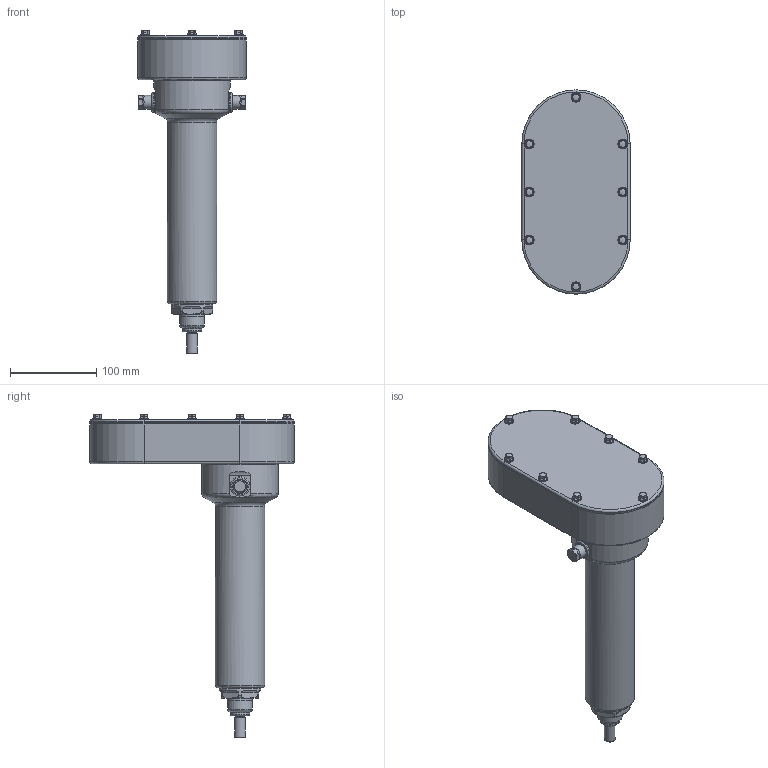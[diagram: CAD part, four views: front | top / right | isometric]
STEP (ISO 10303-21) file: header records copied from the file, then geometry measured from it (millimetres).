
FILE_DESCRIPTION (( 'STEP AP203' ), '1' );
FILE_NAME ('RSH22_BNM10_SM101.600_RS-491345-1.step', '2025-06-24T15:38:36', ( '' ), ( '' ), 'SwSTEP 2.0', 'SolidWorks 2024', '' );
FILE_SCHEMA (( 'CONFIG_CONTROL_DESIGN' ));
Length unit declared in the file: inch
Products named in the file (4): Base_RSH22_BNM10_SM101.600_RS-491345-1; tempJoin2_21229007_RSH22_BNM10_SM101.600_RS-491345-1; RSH22_BNM10_SM101.600_RS-491345-1; 21229036_RSH22_BNM10_SM101.600_RS-491345-1
Assembly tree (3 placements, depth 2):
  RSH22_BNM10_SM101.600_RS-491345-1
    tempJoin2_21229007_RSH22_BNM10_SM101.600_RS-491345-1
    21229036_RSH22_BNM10_SM101.600_RS-491345-1
    Base_RSH22_BNM10_SM101.600_RS-491345-1
Bounding box: 125.73 x 237.19 x 375.84 mm (x, y, z)
Volume: 1514120.8 mm3; surface area: 353423.8 mm2
Topology: 3 solids, 43 shells, 2762 faces, 7277 edges, 4635 vertices
Faces by surface type: cylinder 1144, plane 842, bspline 432, torus 174, cone 161, sphere 9
Full cylindrical faces by diameter (mm): 3.242 x14, 4.2 x17, 4.254 x9, 5 x22, 5.41 x8, 5.5 x8, 5.7 x8, 6.35 x4, 6.477 x2, 6.604 x1, 7.01 x9, 7.949 x9, 8 x9, 8.128 x1, 8.5 x8, 9 x1, 10 x10, 10.8 x1, 11 x8, 11.113 x2, 11.125 x1, 11.189 x1, 11.85 x1, 12.7 x1, 14.25 x2, 14.5 x4, 15.875 x2, 17.986 x1, 19.177 x2, 22.322 x1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
Entity records: 98627 total; most frequent: CARTESIAN_POINT 33359, DIRECTION 13447, ORIENTED_EDGE 13418, EDGE_CURVE 6709, AXIS2_PLACEMENT_3D 5350, VERTEX_POINT 4476, EDGE_LOOP 3413, FACE_OUTER_BOUND 3070
